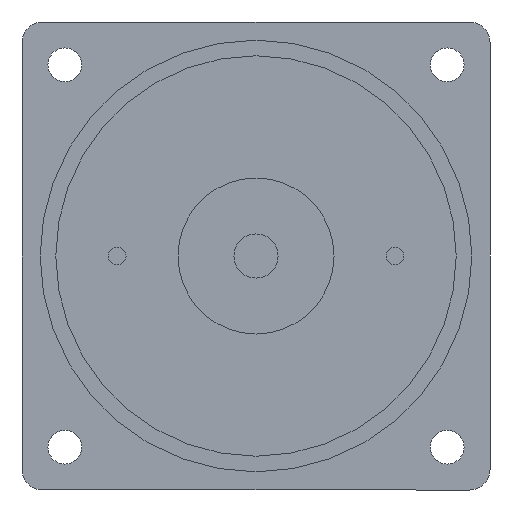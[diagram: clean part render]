
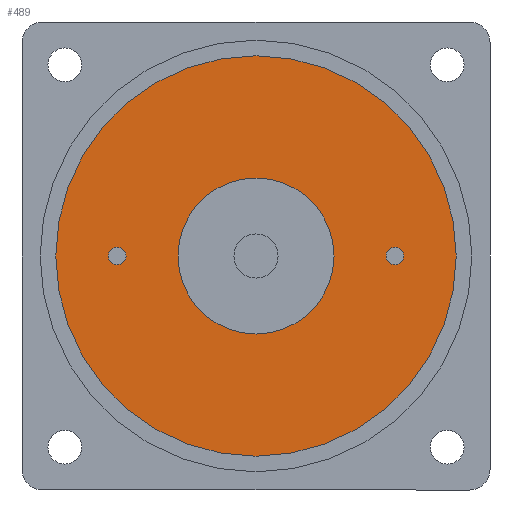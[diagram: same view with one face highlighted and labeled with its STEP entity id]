
A CAD part, front view. The second image highlights one B-rep face of the part: STEP entity #489.
In plain terms, the highlighted planar face has unit normal (0, -1, 0).
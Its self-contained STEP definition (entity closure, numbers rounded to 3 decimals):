
#84=CARTESIAN_POINT('',(28.4,-1.3,0.));
#85=VERTEX_POINT('',#84);
#86=CARTESIAN_POINT('',(26.7,-1.3,0.0));
#87=DIRECTION('',(0.0,1.0,0.0));
#88=DIRECTION('',(-1.0,0.0,0.0));
#89=AXIS2_PLACEMENT_3D('',#86,#87,#88);
#90=CIRCLE('',#89,1.7);
#91=EDGE_CURVE('',#85,#85,#90,.T.);
#121=CARTESIAN_POINT('',(-25.0,-1.3,0.));
#122=VERTEX_POINT('',#121);
#123=CARTESIAN_POINT('',(-26.7,-1.3,0.0));
#124=DIRECTION('',(0.0,1.0,0.0));
#125=DIRECTION('',(-1.0,0.0,0.0));
#126=AXIS2_PLACEMENT_3D('',#123,#124,#125);
#127=CIRCLE('',#126,1.7);
#128=EDGE_CURVE('',#122,#122,#127,.T.);
#456=CARTESIAN_POINT('',(0.0,-1.3,0.0));
#457=DIRECTION('',(0.0,1.0,0.0));
#458=DIRECTION('',(0.0,0.0,1.0));
#459=AXIS2_PLACEMENT_3D('',#456,#457,#458);
#460=PLANE('',#459);
#461=CARTESIAN_POINT('',(38.5,-1.3,0.));
#462=VERTEX_POINT('',#461);
#463=CARTESIAN_POINT('',(0.0,-1.3,0.0));
#464=DIRECTION('',(0.0,-1.0,0.0));
#465=DIRECTION('',(-1.0,0.0,0.0));
#466=AXIS2_PLACEMENT_3D('',#463,#464,#465);
#467=CIRCLE('',#466,38.5);
#468=EDGE_CURVE('',#462,#462,#467,.T.);
#469=ORIENTED_EDGE('',*,*,#468,.T.);
#470=EDGE_LOOP('',(#469));
#471=FACE_OUTER_BOUND('',#470,.T.);
#472=ORIENTED_EDGE('',*,*,#91,.T.);
#473=EDGE_LOOP('',(#472));
#474=FACE_BOUND('',#473,.T.);
#475=ORIENTED_EDGE('',*,*,#128,.T.);
#476=EDGE_LOOP('',(#475));
#477=FACE_BOUND('',#476,.T.);
#478=CARTESIAN_POINT('',(15.0,-1.3,0.));
#479=VERTEX_POINT('',#478);
#480=CARTESIAN_POINT('',(0.0,-1.3,0.0));
#481=DIRECTION('',(0.0,1.0,0.0));
#482=DIRECTION('',(-1.0,0.0,0.0));
#483=AXIS2_PLACEMENT_3D('',#480,#481,#482);
#484=CIRCLE('',#483,15.0);
#485=EDGE_CURVE('',#479,#479,#484,.T.);
#486=ORIENTED_EDGE('',*,*,#485,.T.);
#487=EDGE_LOOP('',(#486));
#488=FACE_BOUND('',#487,.T.);
#489=ADVANCED_FACE('',(#471,#474,#477,#488),#460,.F.);
